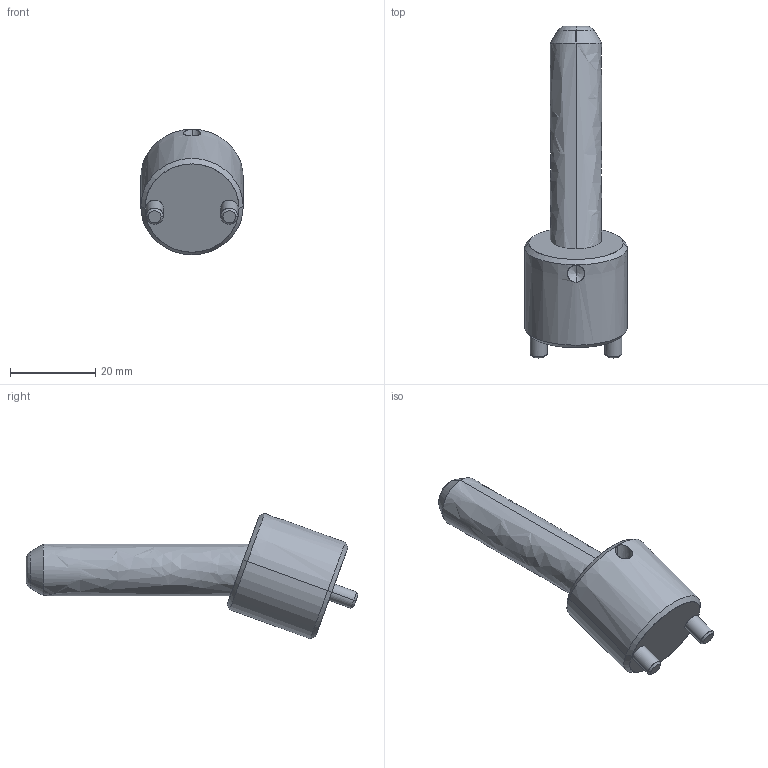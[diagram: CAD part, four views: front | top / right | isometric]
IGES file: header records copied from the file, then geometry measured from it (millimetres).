
Start section: START RECORD GO HERE.
Global section: file name: CI2012050.igs; native system: DASSAULT SYSTEMES CATIA V5 R20 - www.3ds.com; preprocessor: CATIA Version 5 Release 20 ; author: r.borello; organization: CFTORINO; date: 20190621.122455; units: millimetre
Bounding box: 24 x 77.68 x 29.39 mm (x, y, z)
Surface area: 6071.8 mm2 (no closed solid volume)
Topology: 0 solids, 0 shells, 39 faces, 162 edges, 160 vertices
Faces by surface type: revolution 32, plane 7
